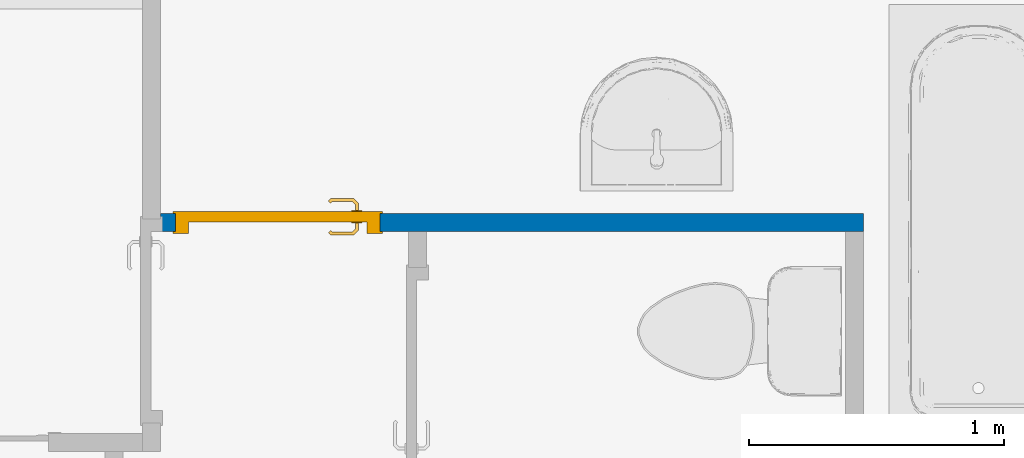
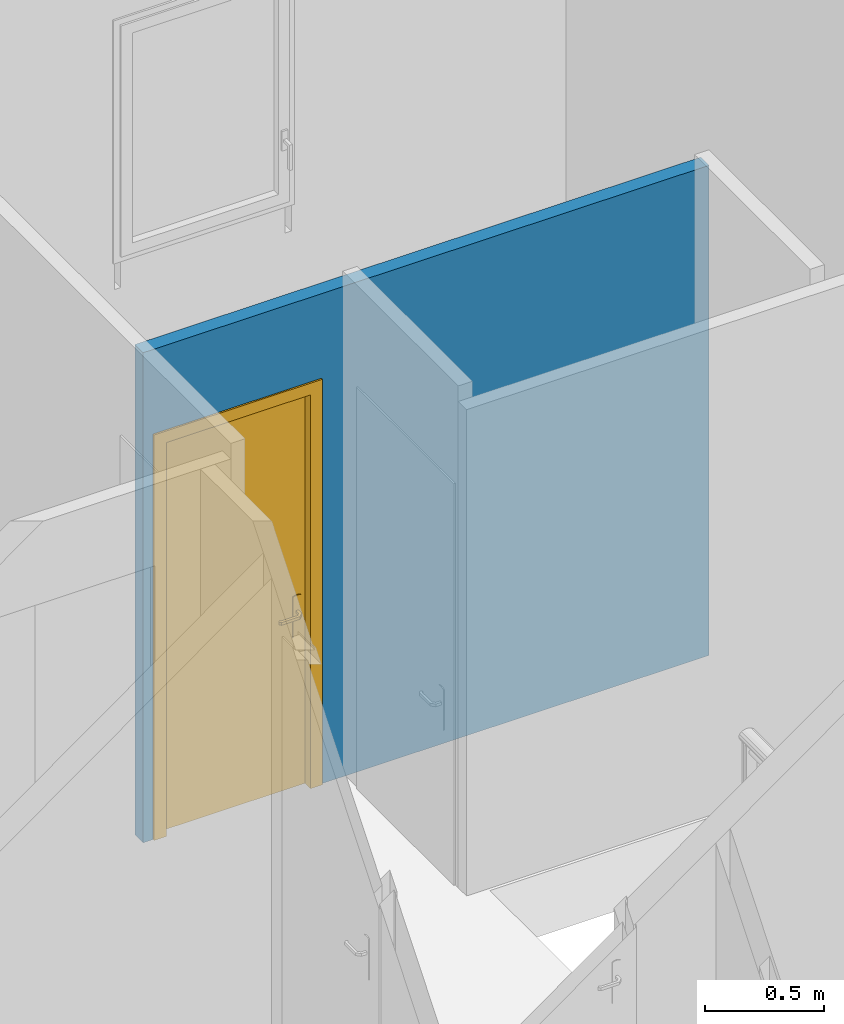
# One storey, part 20 of 61: 1 door, 1 wall, 1 opening.
"""IFC2X3 building model written with IfcOpenShell, lengths in metres."""

from ifc_helpers import new_model, entity, si_unit, converted_unit, derived_unit, direction, frame, frame_2d, origin, place, context, subcontext, project, spatial, rectangle, extrude, faceted_brep, source, transform, mapped, material, material_list, layer, layer_set, layer_usage, type_object, type_shapes, element, fill, save


model = new_model("IFC2X3")

# Units and contexts
model_context = context("Model", 3, precision=1e-05, world=origin(), true_north=direction((6.12303176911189e-17, 1.0)))
body_context = subcontext(model_context, "Body", "Model", "MODEL_VIEW")
ifc_project = project(units=[si_unit("LENGTHUNIT", "METRE"), si_unit("AREAUNIT", "SQUARE_METRE"), si_unit("VOLUMEUNIT", "CUBIC_METRE"), converted_unit("PLANEANGLEUNIT", "DEGREE", entity("IfcRatioMeasure", 0.0174532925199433), si_unit("PLANEANGLEUNIT", "RADIAN"), dimensions=[0, 0, 0, 0, 0, 0, 0]), si_unit("MASSUNIT", "GRAM", prefix="KILO"), derived_unit("MASSDENSITYUNIT", [(si_unit("MASSUNIT", "GRAM", prefix="KILO"), 1), (si_unit("LENGTHUNIT", "METRE"), -3)]), si_unit("TIMEUNIT", "SECOND"), si_unit("FREQUENCYUNIT", "HERTZ"), si_unit("THERMODYNAMICTEMPERATUREUNIT", "DEGREE_CELSIUS"), derived_unit("THERMALTRANSMITTANCEUNIT", [(si_unit("MASSUNIT", "GRAM", prefix="KILO"), 1), (si_unit("THERMODYNAMICTEMPERATUREUNIT", "KELVIN"), -1), (si_unit("TIMEUNIT", "SECOND"), -3)]), derived_unit("VOLUMETRICFLOWRATEUNIT", [(si_unit("LENGTHUNIT", "METRE"), 3), (si_unit("TIMEUNIT", "SECOND"), -1)]), si_unit("ELECTRICCURRENTUNIT", "AMPERE"), si_unit("ELECTRICVOLTAGEUNIT", "VOLT"), si_unit("POWERUNIT", "WATT"), si_unit("FORCEUNIT", "NEWTON", prefix="KILO"), si_unit("ILLUMINANCEUNIT", "LUX"), si_unit("LUMINOUSFLUXUNIT", "LUMEN"), si_unit("LUMINOUSINTENSITYUNIT", "CANDELA"), derived_unit("USERDEFINED", [(si_unit("MASSUNIT", "GRAM", prefix="KILO"), -1), (si_unit("LENGTHUNIT", "METRE"), -2), (si_unit("TIMEUNIT", "SECOND"), 3), (si_unit("LUMINOUSFLUXUNIT", "LUMEN"), 1)]), derived_unit("LINEARVELOCITYUNIT", [(si_unit("LENGTHUNIT", "METRE"), 1), (si_unit("TIMEUNIT", "SECOND"), -1)]), si_unit("PRESSUREUNIT", "PASCAL"), derived_unit("USERDEFINED", [(si_unit("LENGTHUNIT", "METRE"), -2), (si_unit("MASSUNIT", "GRAM", prefix="KILO"), 1), (si_unit("TIMEUNIT", "SECOND"), -2)])], contexts=[model_context])

# Site, building, storey
site_placement = place(None, origin())
site = spatial("IfcSite", under=ifc_project, at=site_placement, Name="Surface", CompositionType="ELEMENT")
building_placement = place(site_placement, origin())
building = spatial("IfcBuilding", under=site, at=building_placement, CompositionType="ELEMENT")
storey_placement = place(building_placement, frame((0.0, 0.0, 2.82)))
storey = spatial("IfcBuildingStorey", under=building, at=storey_placement, Name="ETAGE", CompositionType="ELEMENT", Elevation=2.82)

# Wall, opening, door
ifc_material_1 = material(Name="Peinture - Blanc")
ifc_layer = layer(ifc_material_1, 0.07)
ifc_layer_set = layer_set([ifc_layer], Name="Mur de base:Int.  Platre 70 mm en blanc")
ifc_layer_usage = layer_usage(ifc_layer_set, "AXIS2", "POSITIVE", -0.035)
wall_type = type_object("IfcWallType", Name="Mur de base:Int.  Platre 70 mm en blanc", PredefinedType="STANDARD", material=ifc_layer_set)
wall_placement = place(storey_placement, frame((67.8146263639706, 85.5527566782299, 0.0), z_axis=(0.0, 0.0, 1.0), x_axis=(-1.0, 0.0, 0.0)))
wall = element("IfcWallStandardCase", 1, at=wall_placement, inside=storey, type_object=wall_type, material=ifc_layer_usage, Name="Mur de base:Int.  Platre 70 mm en blanc", ObjectType="Mur de base:Int.  Platre 70 mm en blanc", context=body_context, shape_type="SweptSolid", body=[
    extrude(rectangle(XDim=2.75211659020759, YDim=0.0699999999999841, at=frame_2d((1.37605829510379, 1.64451785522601e-15), x_axis=(-1.0, 0.0))), origin(), (0.0, 0.0, 1.0), 2.52),
])
opening_placement = place(wall_placement, frame((2.69355829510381, 0.0350000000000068, 0.0)))
opening = element("IfcOpeningElement", 2, at=opening_placement, cuts=wall, Name="FR_Simple (R):73 x 204 - (70):1", ObjectType="Opening", context=body_context, shape_type="SweptSolid", body=[
    extrude(rectangle(XDim=2.075, YDim=0.799999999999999, at=frame_2d((1.0375, 0.4), x_axis=(1.0, 0.0))), frame((0.0, 0.0, 0.0), z_axis=(0.0, -1.0, 0.0), x_axis=(0.0, 0.0, 1.0)), (0.0, 0.0, 1.0), 0.07),
])
ifc_material_2 = material(Name="Poignée Porte")
ifc_material_3 = material(Name="Dormants Portes")
ifc_material_4 = material(Name="Panneaux Portes")
ifc_material_list_1 = material_list([ifc_material_2, ifc_material_3, ifc_material_4])
ifc_material_list_2 = material_list([ifc_material_2, ifc_material_3, ifc_material_4])
door_style = type_object("IfcDoorStyle", Name="73 x 204 - (70)", ConstructionType="NOTDEFINED", OperationType="SINGLE_SWING_LEFT", ParameterTakesPrecedence=False, Sizeable=False, material=ifc_material_list_2)
shared_shape = source(origin(), body_context, "Body", "Brep", [
    faceted_brep([(0.100352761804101, -0.0130000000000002, 0.766003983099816), (0.11, -0.0130000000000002, 0.770000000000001), (0.11, -0.0130000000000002, 0.980000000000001), (0.100352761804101, -0.0130000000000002, 0.983996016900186), (0.0900000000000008, -0.0130000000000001, 0.985358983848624), (0.0796472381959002, -0.0130000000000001, 0.983996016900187), (0.0700000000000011, -0.0130000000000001, 0.980000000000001), (0.0700000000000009, -0.0130000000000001, 0.770000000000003), (0.0796472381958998, -0.0130000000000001, 0.766003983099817), (0.0900000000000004, -0.0130000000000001, 0.764641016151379), (0.100352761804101, -0.00800000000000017, 0.983996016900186), (0.11, -0.00800000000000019, 0.980000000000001), (0.11, -0.00800000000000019, 0.770000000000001), (0.100352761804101, -0.00800000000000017, 0.766003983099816), (0.0900000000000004, -0.00800000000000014, 0.764641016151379), (0.0796472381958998, -0.0080000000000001, 0.766003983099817), (0.0700000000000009, -0.00800000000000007, 0.770000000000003), (0.0700000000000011, -0.00800000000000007, 0.980000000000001), (0.0796472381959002, -0.0080000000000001, 0.983996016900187), (0.0900000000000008, -0.00800000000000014, 0.985358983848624)], [[[0, 1, 2, 3, 4, 5, 6, 7, 8, 9]], [[10, 11, 12, 13, 14, 15, 16, 17, 18, 19]], [[16, 15, 8, 7]], [[8, 15, 14, 9]], [[14, 13, 0, 9]], [[13, 12, 1, 0]], [[2, 1, 12, 11]], [[11, 10, 3, 2]], [[3, 10, 19, 4]], [[19, 18, 5, 4]], [[18, 17, 6, 5]], [[7, 6, 17, 16]]]),
    faceted_brep([(0.100352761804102, 0.0319999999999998, 0.766003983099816), (0.110000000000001, 0.0319999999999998, 0.770000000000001), (0.11, 0.0319999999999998, 0.980000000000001), (0.100352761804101, 0.0319999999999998, 0.983996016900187), (0.0900000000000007, 0.0319999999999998, 0.985358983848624), (0.0796472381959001, 0.0319999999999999, 0.983996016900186), (0.0700000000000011, 0.0319999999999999, 0.980000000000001), (0.0700000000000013, 0.0319999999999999, 0.770000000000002), (0.0796472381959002, 0.0319999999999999, 0.766003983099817), (0.0900000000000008, 0.0319999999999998, 0.764641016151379), (0.100352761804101, 0.0369999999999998, 0.983996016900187), (0.11, 0.0369999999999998, 0.980000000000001), (0.110000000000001, 0.0369999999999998, 0.770000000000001), (0.100352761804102, 0.0369999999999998, 0.766003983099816), (0.0900000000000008, 0.0369999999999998, 0.764641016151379), (0.0796472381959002, 0.0369999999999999, 0.766003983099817), (0.0700000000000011, 0.0369999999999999, 0.770000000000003), (0.0700000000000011, 0.0369999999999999, 0.980000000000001), (0.0796472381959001, 0.0369999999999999, 0.983996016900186), (0.0900000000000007, 0.0369999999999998, 0.985358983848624)], [[[0, 1, 2, 3, 4, 5, 6, 7, 8, 9]], [[10, 11, 12, 13, 14, 15, 16, 17, 18, 19]], [[11, 10, 3, 2]], [[3, 10, 19, 4]], [[19, 18, 5, 4]], [[18, 17, 6, 5]], [[7, 6, 17, 16]], [[16, 15, 8, 7]], [[8, 15, 14, 9]], [[14, 13, 0, 9]], [[13, 12, 1, 0]], [[2, 1, 12, 11]]]),
    faceted_brep([(0.0879747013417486, -0.0130000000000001, 0.907780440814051), (0.0920252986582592, -0.0130000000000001, 0.907780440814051), (0.0960000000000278, -0.0130000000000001, 0.906999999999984), (0.0960000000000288, -0.0130000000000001, 0.893000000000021), (0.0920252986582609, -0.0130000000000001, 0.89221955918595), (0.0879747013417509, -0.0130000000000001, 0.892219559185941), (0.0839999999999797, -0.0130000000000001, 0.892999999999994), (0.0839999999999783, -0.0130000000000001, 0.90699999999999), (0.083999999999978, -0.0406509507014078, 0.906999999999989), (0.0879747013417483, -0.0390045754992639, 0.907780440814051), (0.104023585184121, -0.0550534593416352, 0.907780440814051), (0.105701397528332, -0.0510028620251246, 0.907780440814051), (0.0920252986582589, -0.0373267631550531, 0.907780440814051), (0.198521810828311, -0.0473891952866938, 0.90778044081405), (0.195657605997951, -0.0445249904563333, 0.90778044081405), (0.18917973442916, -0.0510028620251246, 0.90778044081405), (0.190857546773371, -0.0550534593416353, 0.90778044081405), (0.0960000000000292, -0.0356803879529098, 0.90699999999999), (0.0960000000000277, -0.0356803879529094, 0.893000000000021), (0.0920252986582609, -0.0373267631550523, 0.89221955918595), (0.105701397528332, -0.0510028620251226, 0.89221955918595), (0.104023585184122, -0.0550534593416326, 0.89221955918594), (0.0879747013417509, -0.0390045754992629, 0.89221955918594), (0.195657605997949, -0.044524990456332, 0.89221955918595), (0.19852181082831, -0.0473891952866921, 0.89221955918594), (0.19085754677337, -0.0550534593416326, 0.89221955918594), (0.18917973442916, -0.0510028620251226, 0.89221955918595), (0.0839999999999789, -0.0406509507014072, 0.892999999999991), (0.102377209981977, -0.0590281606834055, 0.906999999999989), (0.107347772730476, -0.0470281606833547, 0.90699999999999), (0.107347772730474, -0.0470281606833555, 0.893000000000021), (0.102377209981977, -0.0590281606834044, 0.892999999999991), (0.142307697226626, -0.0590281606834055, 0.906999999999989), (0.147440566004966, -0.053182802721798, 0.907878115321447), (0.192503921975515, -0.0590281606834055, 0.906999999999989), (0.147440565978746, -0.0470281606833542, 0.90699999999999), (0.187533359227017, -0.0470281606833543, 0.906999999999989), (0.187533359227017, -0.0470281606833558, 0.89300000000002), (0.147440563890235, -0.0470281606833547, 0.893000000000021), (0.147440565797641, -0.0531828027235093, 0.892121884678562), (0.192503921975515, -0.0590281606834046, 0.892999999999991), (0.152573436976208, -0.0590281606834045, 0.892999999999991), (0.192847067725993, -0.0417144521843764, 0.906999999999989), (0.201332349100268, -0.0501997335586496, 0.906999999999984), (0.201332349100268, -0.05019973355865, 0.892999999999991), (0.192847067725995, -0.0417144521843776, 0.893000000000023)], [[[0, 1, 2, 3, 4, 5, 6, 7]], [[8, 9, 0, 7]], [[9, 10, 11, 12, 1, 0]], [[13, 14, 15, 16]], [[12, 17, 2, 1]], [[3, 2, 17, 18]], [[18, 19, 4, 3]], [[19, 20, 21, 22, 5, 4]], [[23, 24, 25, 26]], [[22, 27, 6, 5]], [[7, 6, 27, 8]], [[28, 10, 9, 8]], [[11, 29, 17, 12]], [[18, 17, 29, 30]], [[30, 20, 19, 18]], [[21, 31, 27, 22]], [[8, 27, 31, 28]], [[32, 33, 10]], [[33, 32, 16]], [[10, 28, 32]], [[34, 16, 32]], [[33, 35, 11]], [[11, 10, 33]], [[15, 35, 33]], [[29, 11, 35]], [[35, 15, 36]], [[15, 33, 16]], [[30, 29, 35, 36, 37, 38]], [[20, 38, 39]], [[25, 40, 41]], [[31, 21, 41]], [[41, 21, 39]], [[39, 38, 26]], [[26, 25, 39]], [[38, 20, 30]], [[37, 26, 38]], [[20, 39, 21]], [[41, 39, 25]], [[28, 31, 41, 40, 34, 32]], [[42, 14, 13, 43, 44, 24, 23, 45]], [[43, 13, 16, 34]], [[14, 42, 36, 15]], [[37, 36, 42, 45]], [[45, 23, 26, 37]], [[24, 44, 40, 25]], [[34, 40, 44, 43]]]),
    faceted_brep([(0.0879747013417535, 0.0369999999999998, 0.892219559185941), (0.092025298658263, 0.0369999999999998, 0.892219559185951), (0.0960000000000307, 0.0369999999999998, 0.893000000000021), (0.096000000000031, 0.0369999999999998, 0.90699999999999), (0.0920252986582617, 0.0369999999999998, 0.907780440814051), (0.0879747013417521, 0.0369999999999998, 0.907780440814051), (0.0839999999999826, 0.0369999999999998, 0.90699999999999), (0.0839999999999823, 0.0369999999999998, 0.892999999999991), (0.0960000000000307, 0.0594852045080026, 0.893000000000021), (0.0960000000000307, 0.0594852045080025, 0.90699999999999), (0.092025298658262, 0.0611315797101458, 0.907780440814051), (0.105838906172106, 0.0749451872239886, 0.907780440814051), (0.104161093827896, 0.0789957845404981, 0.907780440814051), (0.0879747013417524, 0.0628093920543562, 0.907780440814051), (0.195684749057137, 0.0684673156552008, 0.907780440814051), (0.198548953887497, 0.071331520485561, 0.907780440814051), (0.190884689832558, 0.0789957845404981, 0.907780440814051), (0.189206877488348, 0.0749451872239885, 0.907780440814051), (0.0839999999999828, 0.0644557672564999, 0.90699999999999), (0.0839999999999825, 0.0644557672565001, 0.892999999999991), (0.0879747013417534, 0.0628093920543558, 0.892219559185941), (0.104161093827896, 0.0789957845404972, 0.892219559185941), (0.105838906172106, 0.0749451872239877, 0.892219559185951), (0.0920252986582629, 0.0611315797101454, 0.892219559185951), (0.198548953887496, 0.07133152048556, 0.89221955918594), (0.195684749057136, 0.0684673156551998, 0.89221955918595), (0.189206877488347, 0.0749451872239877, 0.89221955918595), (0.190884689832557, 0.0789957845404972, 0.89221955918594), (0.107485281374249, 0.0709704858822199, 0.893000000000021), (0.107485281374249, 0.0709704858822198, 0.90699999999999), (0.102514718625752, 0.0829704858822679, 0.90699999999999), (0.102514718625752, 0.0829704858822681, 0.892999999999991), (0.147522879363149, 0.0709704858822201, 0.89300000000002), (0.187560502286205, 0.0709704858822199, 0.89300000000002), (0.187560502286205, 0.0709704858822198, 0.90699999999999), (0.147522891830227, 0.0709704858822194, 0.90699999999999), (0.147522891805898, 0.0771249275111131, 0.907878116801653), (0.192531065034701, 0.0829704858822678, 0.90699999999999), (0.152600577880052, 0.0829704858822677, 0.90699999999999), (0.192531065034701, 0.082970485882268, 0.892999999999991), (0.142445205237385, 0.0829704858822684, 0.892999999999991), (0.147522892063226, 0.0771249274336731, 0.892121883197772), (0.192874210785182, 0.0656567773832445, 0.89300000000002), (0.201359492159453, 0.0741420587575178, 0.892999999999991), (0.201359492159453, 0.0741420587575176, 0.90699999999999), (0.192874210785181, 0.0656567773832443, 0.90699999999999)], [[[0, 1, 2, 3, 4, 5, 6, 7]], [[3, 2, 8, 9]], [[9, 10, 4, 3]], [[10, 11, 12, 13, 5, 4]], [[14, 15, 16, 17]], [[13, 18, 6, 5]], [[7, 6, 18, 19]], [[19, 20, 0, 7]], [[20, 21, 22, 23, 1, 0]], [[24, 25, 26, 27]], [[23, 8, 2, 1]], [[9, 8, 28, 29]], [[29, 11, 10, 9]], [[12, 30, 18, 13]], [[19, 18, 30, 31]], [[31, 21, 20, 19]], [[22, 28, 8, 23]], [[28, 32, 33, 34, 35, 29]], [[11, 35, 36]], [[16, 37, 38]], [[30, 12, 38]], [[38, 12, 36]], [[36, 35, 17]], [[17, 16, 36]], [[35, 11, 29]], [[34, 17, 35]], [[11, 36, 12]], [[38, 36, 16]], [[31, 30, 38, 37, 39, 40]], [[40, 41, 21]], [[41, 40, 27]], [[21, 31, 40]], [[39, 27, 40]], [[41, 32, 22]], [[22, 21, 41]], [[26, 32, 41]], [[28, 22, 32]], [[32, 26, 33]], [[26, 41, 27]], [[42, 25, 24, 43, 44, 15, 14, 45]], [[34, 33, 42, 45]], [[45, 14, 17, 34]], [[15, 44, 37, 16]], [[39, 37, 44, 43]], [[43, 24, 27, 39]], [[25, 42, 33, 26]]]),
    faceted_brep([(0.0, 0.0, 0.0), (0.0, 0.0700000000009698, 0.0), (-0.00999999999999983, 0.0700000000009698, 0.0), (-0.00999999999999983, 0.0780000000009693, 0.0), (0.0499999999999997, 0.0780000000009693, 0.0), (0.0499999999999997, 0.032, 0.0), (0.0350000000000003, 0.032, 0.0), (0.0350000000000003, -0.00799999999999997, 0.0), (-0.00999999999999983, -0.00799999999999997, 0.0), (-0.00999999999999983, 0.0, 0.0), (0.0, 0.0, 2.075), (0.0, 0.0700000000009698, 2.075), (0.799999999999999, 0.0700000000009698, 2.075), (0.799999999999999, 0.0700000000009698, 0.0), (0.809999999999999, 0.0700000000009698, 0.0), (0.809999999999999, 0.0700000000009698, 2.085), (-0.00999999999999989, 0.0700000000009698, 2.085), (-0.00999999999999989, 0.0780000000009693, 2.085), (0.809999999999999, 0.0780000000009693, 2.085), (0.809999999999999, 0.0780000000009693, 0.0), (0.75, 0.0780000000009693, 0.0), (0.75, 0.0780000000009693, 2.025), (0.0499999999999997, 0.0780000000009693, 2.025), (0.0499999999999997, 0.032, 2.025), (0.75, 0.032, 2.025), (0.75, 0.032, 0.0), (0.764999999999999, 0.032, 0.0), (0.764999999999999, 0.032, 2.04), (0.0350000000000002, 0.032, 2.04), (0.0350000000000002, -0.00799999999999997, 2.04), (0.764999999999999, -0.00799999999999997, 2.04), (0.764999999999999, -0.00799999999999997, 0.0), (0.809999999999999, -0.00799999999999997, 0.0), (0.809999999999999, -0.00799999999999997, 2.085), (-0.00999999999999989, -0.00799999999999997, 2.085), (-0.00999999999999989, 0.0, 2.085), (0.809999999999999, 0.0, 2.085), (0.809999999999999, 0.0, 0.0), (0.799999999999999, 0.0, 0.0), (0.799999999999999, 0.0, 2.075)], [[[0, 1, 2, 3, 4, 5, 6, 7, 8, 9]], [[1, 0, 10, 11]], [[2, 1, 11, 12, 13, 14, 15, 16]], [[3, 2, 16, 17]], [[4, 3, 17, 18, 19, 20, 21, 22]], [[5, 4, 22, 23]], [[6, 5, 23, 24, 25, 26, 27, 28]], [[7, 6, 28, 29]], [[8, 7, 29, 30, 31, 32, 33, 34]], [[9, 8, 34, 35]], [[0, 9, 35, 36, 37, 38, 39, 10]], [[11, 10, 39, 12]], [[17, 16, 15, 18]], [[23, 22, 21, 24]], [[29, 28, 27, 30]], [[35, 34, 33, 36]], [[38, 37, 32, 31, 26, 25, 20, 19, 14, 13]], [[12, 39, 38, 13]], [[18, 15, 14, 19]], [[24, 21, 20, 25]], [[30, 27, 26, 31]], [[36, 33, 32, 37]]]),
    faceted_brep([(0.0350000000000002, -0.00799999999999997, 2.04), (0.0350000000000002, -0.00799999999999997, 0.0), (0.764999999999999, -0.00799999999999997, 0.0), (0.764999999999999, -0.00799999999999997, 2.04), (0.0350000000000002, 0.032, 2.04), (0.764999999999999, 0.032, 2.04), (0.764999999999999, 0.032, 0.0), (0.0350000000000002, 0.032, 0.0)], [[[0, 1, 2, 3]], [[4, 5, 6, 7]], [[1, 0, 4, 7]], [[2, 1, 7, 6]], [[3, 2, 6, 5]], [[0, 3, 5, 4]]]),
])
type_shapes(door_style, [shared_shape])
door_placement = place(opening_placement, frame((-0.799999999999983, -0.0699999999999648, 0.0)))
door = element("IfcDoor", 3, at=door_placement, inside=storey, type_object=door_style, material=ifc_material_list_1, Name="FR_Simple (R):73 x 204 - (70)", ObjectType="FR_Simple (R):73 x 204 - (70)", OverallHeight=2.075, OverallWidth=0.8, context=body_context, shape_type="MappedRepresentation", body=[
    mapped(shared_shape, transform((0.0, 0.0, 0.0), scale=1.0)),
])
fill(opening, door)

save(model, "model.ifc")
